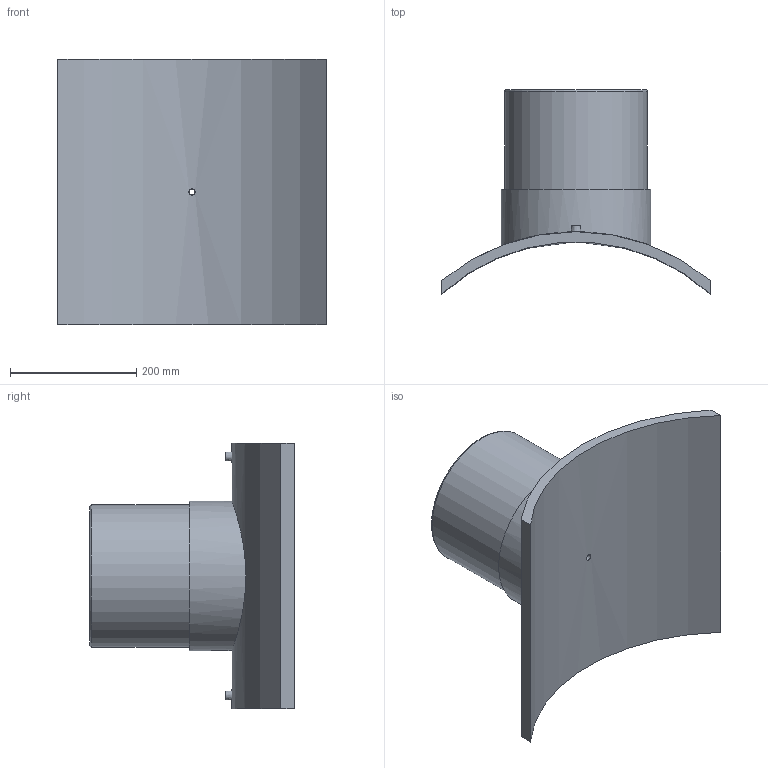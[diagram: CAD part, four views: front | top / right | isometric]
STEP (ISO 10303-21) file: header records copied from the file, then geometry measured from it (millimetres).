
FILE_DESCRIPTION(/* description */ ('PLASSON BRANCH SADDLE 630x225'),/* implementation_level */ '2;1');
FILE_NAME(/* name */ 'C:\Dropbox\KIMPROJECTS-Inventor 2019\99-16-3568-Processing\ElectroFusion Fittings\495803\stp\495803630225TN.stp',/* time_stamp */ '2024-04-04T11:54:06+02:00',/* author */ ('KIM'),/* organization */ (''),/* preprocessor_version */ 'ST-DEVELOPER v17.2',/* originating_system */ 'Autodesk Inventor 2019',/* authorisation */ '');
FILE_SCHEMA (('AUTOMOTIVE_DESIGN { 1 0 10303 214 3 1 1 }'));
Length unit declared in the file: millimetre
Products named in the file (1): 495803630225TN
Bounding box: 425 x 323.47 x 420 mm (x, y, z)
Volume: 6781295.9 mm3; surface area: 731785 mm2
Topology: 1 solids, 1 shells, 29 faces, 60 edges, 43 vertices
Faces by surface type: plane 13, cylinder 12, torus 2, cone 2
Full cylindrical faces by diameter (mm): 4 x2, 9.6 x1, 10 x2, 16 x1, 180 x1, 225 x1, 236.25 x1
Entity records: 1086 total; most frequent: CARTESIAN_POINT 400, DIRECTION 139, ORIENTED_EDGE 120, EDGE_CURVE 60, AXIS2_PLACEMENT_3D 60, VERTEX_POINT 43, EDGE_LOOP 41, CIRCLE 30
